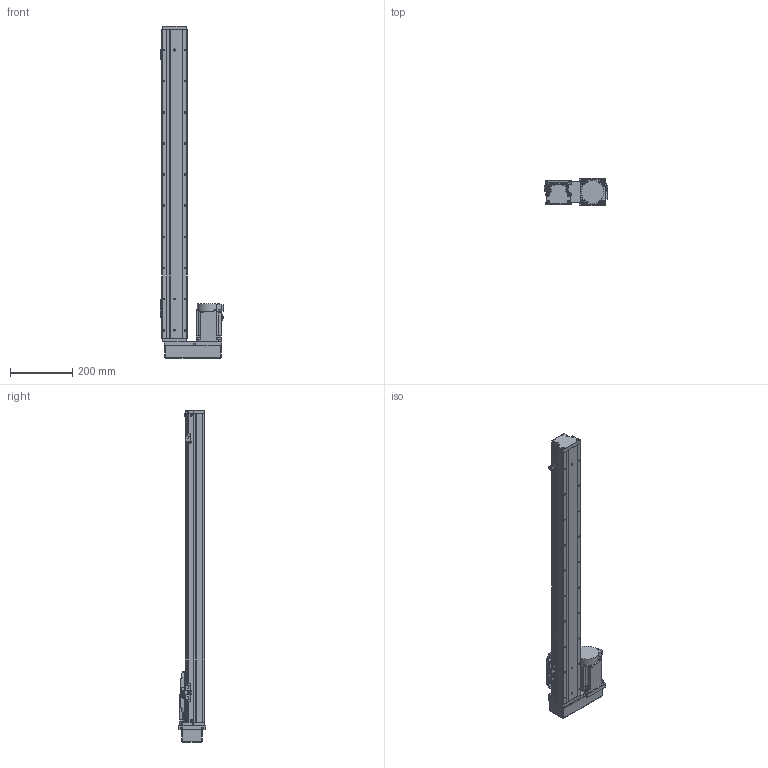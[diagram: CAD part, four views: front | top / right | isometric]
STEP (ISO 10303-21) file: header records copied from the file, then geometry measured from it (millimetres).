
FILE_DESCRIPTION (( 'STEP AP203' ), '1' );
FILE_NAME ('GTH8-800-BR-M75-C4.step', '2023-02-14T02:34:54', ( '微软用户' ), ( '微软中国' ), 'SwSTEP 2.0', 'SolidWorks 2020', '' );
FILE_SCHEMA (( 'CONFIG_CONTROL_DESIGN' ));
Length unit declared in the file: millimetre
Products named in the file (18): GTH80-004; GTH80-028; hg-kn73j_-s100; GTH80-006; GTH50-024; GTH8-800-BR-M75-C4; GTH80-013; GTH50-023; GBT 70.3-M3℅6; GBT96.1-2002 3×0.8; GTH80-022; BTH-M3X5X6; GTH80-001_800; GBT 70.1-M3℅6; CTHA86-015-3_CTHA86-015-4; GTH80-003; GBT 70.1-M4×16; CTHA86-035
Assembly tree (57 placements, depth 2):
  GTH8-800-BR-M75-C4
    GTH80-001_800
    GTH80-003
    GTH80-004
    GTH80-006
    GTH80-013
    GBT 70.3-M3℅6  x4
    GTH80-022
    GBT 70.1-M3℅6  x14
    GBT 70.1-M4×16  x8
    GTH80-028  x2
    GTH50-024  x3
    GTH50-023  x3
    GBT96.1-2002 3×0.8  x6
    BTH-M3X5X6  x8
    CTHA86-015-3_CTHA86-015-4
    CTHA86-035
    hg-kn73j_-s100
Bounding box: 204.7 x 87 x 1066 mm (x, y, z)
Volume: 5831835.9 mm3; surface area: 572480 mm2
Topology: 59 solids, 59 shells, 2203 faces, 5118 edges, 3136 vertices
Faces by surface type: plane 1153, cylinder 635, cone 243, torus 158, sphere 12, bspline 2
Entity records: 39884 total; most frequent: CARTESIAN_POINT 6695, DIRECTION 6585, ORIENTED_EDGE 6046, EDGE_CURVE 3023, AXIS2_PLACEMENT_3D 2326, LINE 1933, VECTOR 1933, VERTEX_POINT 1911
